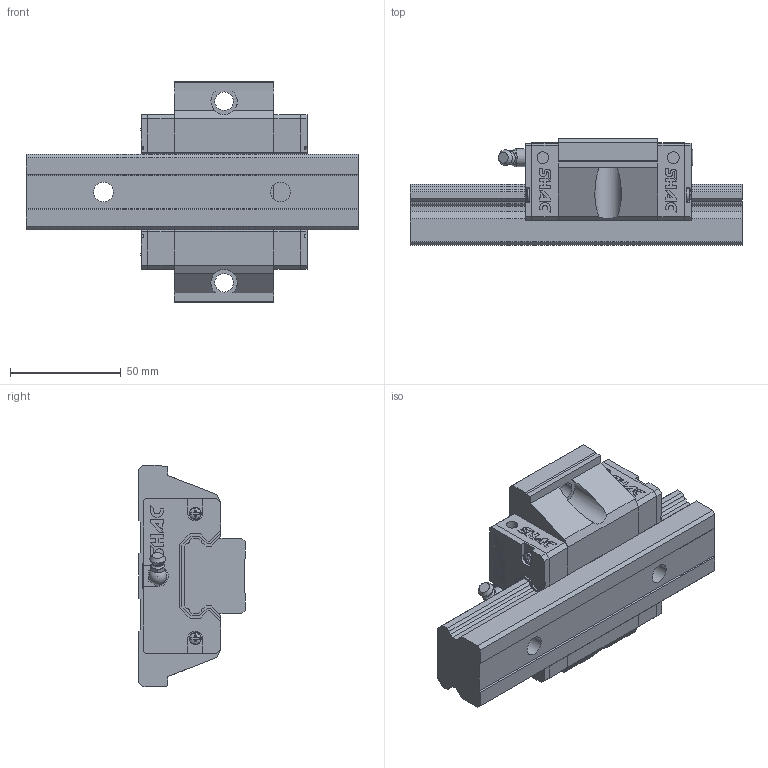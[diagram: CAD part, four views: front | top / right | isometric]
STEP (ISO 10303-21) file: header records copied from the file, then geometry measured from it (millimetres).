
FILE_DESCRIPTION( ( 'STEP AP214' ), '1' );
FILE_NAME( 'F:/品牌/SHAC 台湾鼎翰传动科技有限公司/3D滑块/GEW35SA1R150Z0C-35_35_1__.stp', '2025-04-21T22:51:17', ( 'License CC BY-ND 4.0' ), ( 'CADENAS' ), ' ', 'PARTsolutions', ' ' );
FILE_SCHEMA( ( 'AUTOMOTIVE_DESIGN { 1 0 10303 214 1 1 1 1 }' ) );
Length unit declared in the file: millimetre
Products named in the file (8): GEW35SA1R150Z0C-35/35(1_); _GE35SR150-35/35(2)_RAIL; _GEW35SA_slider; _GES35_C; _GES35_P; _GH35_SCREW; _GH35_BOLT; _GH35-_G
Assembly tree (12 placements, depth 2):
  GEW35SA1R150Z0C-35/35(1_)
    _GE35SR150-35/35(2)_RAIL
    _GEW35SA_slider
    _GES35_C  x2
    _GES35_P  x2
    _GH35_SCREW  x4
    _GH35_BOLT
    _GH35-_G
Bounding box: 150 x 48 x 100 mm (x, y, z)
Volume: 300773.9 mm3; surface area: 66636.6 mm2
Topology: 12 solids, 12 shells, 755 faces, 2046 edges, 1355 vertices
Faces by surface type: plane 624, cylinder 101, cone 18, torus 6, sphere 5, bspline 1
Full cylindrical faces by diameter (mm): 3.3 x4, 4.5 x1, 5.2 x4, 5.43 x4, 6 x2, 6.5 x2, 7.3 x2, 8 x1, 8.2 x1, 8.376 x2, 9 x2, 14 x2
Entity records: 17822 total; most frequent: CARTESIAN_POINT 2648, ORIENTED_EDGE 2376, DIRECTION 2253, EDGE_CURVE 1188, LINE 995, VECTOR 995, VERTEX_POINT 804, AXIS2_PLACEMENT_3D 629
